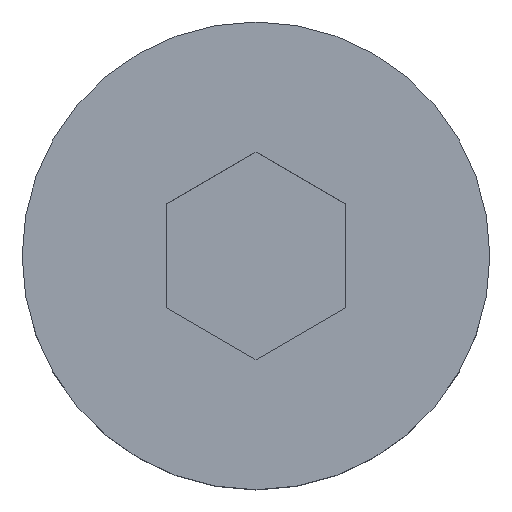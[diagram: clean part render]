
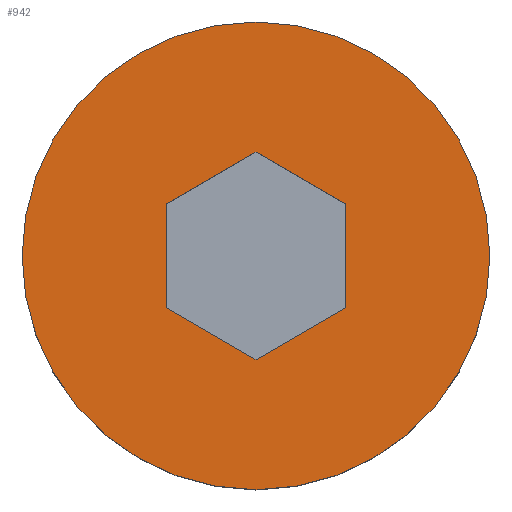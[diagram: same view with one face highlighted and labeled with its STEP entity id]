
A CAD part, top view. The second image highlights one B-rep face of the part: STEP entity #942.
In plain terms, the highlighted planar face has unit normal (0, 0, 1).
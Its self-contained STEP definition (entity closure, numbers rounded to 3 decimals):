
#8 = AXIS2_PLACEMENT_3D ( 'NONE', #746, #742, #738 ) ;
#15 = EDGE_LOOP ( 'NONE', ( #777, #1054 ) ) ;
#24 = VERTEX_POINT ( 'NONE', #916 ) ;
#36 = CARTESIAN_POINT ( 'NONE',  ( 5., -2.887, 8. ) ) ;
#82 = VECTOR ( 'NONE', #594, 1000. ) ;
#86 = DIRECTION ( 'NONE',  ( 1., 0., 0. ) ) ;
#91 = LINE ( 'NONE', #649, #82 ) ;
#94 = DIRECTION ( 'NONE',  ( 0., 0., 1. ) ) ;
#106 = CARTESIAN_POINT ( 'NONE',  ( 0., 0., 8. ) ) ;
#118 = CIRCLE ( 'NONE', #8, 13. ) ;
#128 = FACE_BOUND ( 'NONE', #832, .T. ) ;
#134 = VECTOR ( 'NONE', #351, 1000. ) ;
#197 = AXIS2_PLACEMENT_3D ( 'NONE', #106, #94, #86 ) ;
#235 = EDGE_CURVE ( 'NONE', #499, #638, #91, .T. ) ;
#248 = PLANE ( 'NONE',  #597 ) ;
#293 = EDGE_CURVE ( 'NONE', #638, #574, #1099, .T. ) ;
#319 = CIRCLE ( 'NONE', #197, 13. ) ;
#321 = CARTESIAN_POINT ( 'NONE',  ( 13., 0., 8. ) ) ;
#323 = DIRECTION ( 'NONE',  ( 0., 0., -1. ) ) ;
#326 = DIRECTION ( 'NONE',  ( -1., 0., 0. ) ) ;
#337 = EDGE_CURVE ( 'NONE', #512, #24, #1111, .T. ) ;
#338 = DIRECTION ( 'NONE',  ( -0.866, -0.5, 0. ) ) ;
#345 = CARTESIAN_POINT ( 'NONE',  ( 7.25, 9.959, 8. ) ) ;
#348 = FACE_OUTER_BOUND ( 'NONE', #15, .T. ) ;
#351 = DIRECTION ( 'NONE',  ( 0.866, 0.5, 0. ) ) ;
#362 = EDGE_CURVE ( 'NONE', #513, #499, #515, .T. ) ;
#370 = EDGE_CURVE ( 'NONE', #24, #513, #531, .T. ) ;
#384 = EDGE_CURVE ( 'NONE', #574, #512, #433, .T. ) ;
#402 = CARTESIAN_POINT ( 'NONE',  ( -5., 0., 8. ) ) ;
#407 = CARTESIAN_POINT ( 'NONE',  ( 7.25, -9.959, 8. ) ) ;
#421 = VECTOR ( 'NONE', #338, 1000. ) ;
#431 = VECTOR ( 'NONE', #468, 1000. ) ;
#433 = LINE ( 'NONE', #345, #421 ) ;
#436 = DIRECTION ( 'NONE',  ( 0., -1., 0. ) ) ;
#441 = ORIENTED_EDGE ( 'NONE', *, *, #337, .F. ) ;
#468 = DIRECTION ( 'NONE',  ( 0.866, -0.5, 0. ) ) ;
#470 = EDGE_CURVE ( 'NONE', #906, #576, #319, .T. ) ;
#499 = VERTEX_POINT ( 'NONE', #36 ) ;
#512 = VERTEX_POINT ( 'NONE', #1132 ) ;
#513 = VERTEX_POINT ( 'NONE', #1040 ) ;
#515 = LINE ( 'NONE', #927, #134 ) ;
#527 = CARTESIAN_POINT ( 'NONE',  ( 12.25, -1.299, 8. ) ) ;
#531 = LINE ( 'NONE', #407, #431 ) ;
#542 = VECTOR ( 'NONE', #436, 1000. ) ;
#543 = EDGE_CURVE ( 'NONE', #576, #906, #118, .T. ) ;
#574 = VERTEX_POINT ( 'NONE', #838 ) ;
#576 = VERTEX_POINT ( 'NONE', #761 ) ;
#594 = DIRECTION ( 'NONE',  ( 0., 1., 0. ) ) ;
#597 = AXIS2_PLACEMENT_3D ( 'NONE', #321, #323, #326 ) ;
#638 = VERTEX_POINT ( 'NONE', #646 ) ;
#646 = CARTESIAN_POINT ( 'NONE',  ( 5., 2.887, 8. ) ) ;
#649 = CARTESIAN_POINT ( 'NONE',  ( 5., 0., 8. ) ) ;
#706 = DIRECTION ( 'NONE',  ( -0.866, 0.5, 0. ) ) ;
#738 = DIRECTION ( 'NONE',  ( 1., 0., 0. ) ) ;
#742 = DIRECTION ( 'NONE',  ( 0., 0., 1. ) ) ;
#746 = CARTESIAN_POINT ( 'NONE',  ( 0., 0., 8. ) ) ;
#761 = CARTESIAN_POINT ( 'NONE',  ( 13., 0., 8. ) ) ;
#777 = ORIENTED_EDGE ( 'NONE', *, *, #543, .T. ) ;
#832 = EDGE_LOOP ( 'NONE', ( #1150, #931, #924, #1127, #1131, #441 ) ) ;
#838 = CARTESIAN_POINT ( 'NONE',  ( 0., 5.774, 8. ) ) ;
#906 = VERTEX_POINT ( 'NONE', #1076 ) ;
#916 = CARTESIAN_POINT ( 'NONE',  ( -5., -2.887, 8. ) ) ;
#924 = ORIENTED_EDGE ( 'NONE', *, *, #235, .F. ) ;
#927 = CARTESIAN_POINT ( 'NONE',  ( 12.25, 1.299, 8. ) ) ;
#931 = ORIENTED_EDGE ( 'NONE', *, *, #293, .F. ) ;
#942 = ADVANCED_FACE ( 'NONE', ( #348, #128 ), #248, .F. ) ;
#1040 = CARTESIAN_POINT ( 'NONE',  ( 0., -5.774, 8. ) ) ;
#1054 = ORIENTED_EDGE ( 'NONE', *, *, #470, .T. ) ;
#1076 = CARTESIAN_POINT ( 'NONE',  ( -13., 0., 8. ) ) ;
#1099 = LINE ( 'NONE', #527, #1110 ) ;
#1110 = VECTOR ( 'NONE', #706, 1000. ) ;
#1111 = LINE ( 'NONE', #402, #542 ) ;
#1127 = ORIENTED_EDGE ( 'NONE', *, *, #362, .F. ) ;
#1131 = ORIENTED_EDGE ( 'NONE', *, *, #370, .F. ) ;
#1132 = CARTESIAN_POINT ( 'NONE',  ( -5., 2.887, 8. ) ) ;
#1150 = ORIENTED_EDGE ( 'NONE', *, *, #384, .F. ) ;
